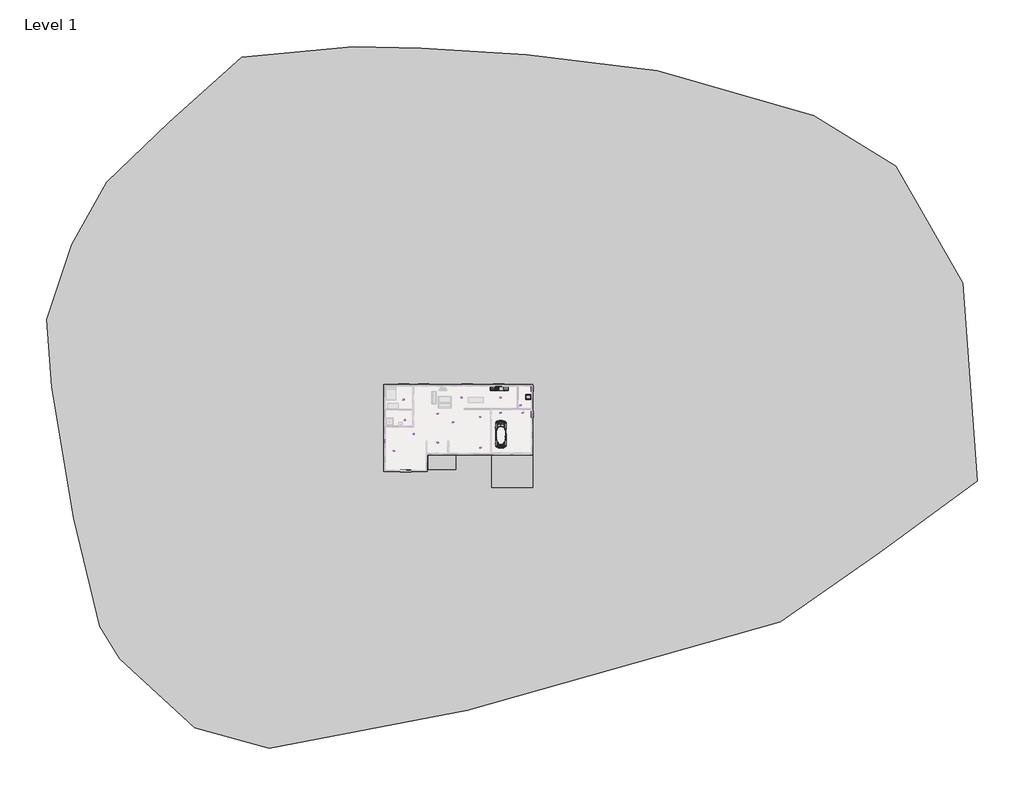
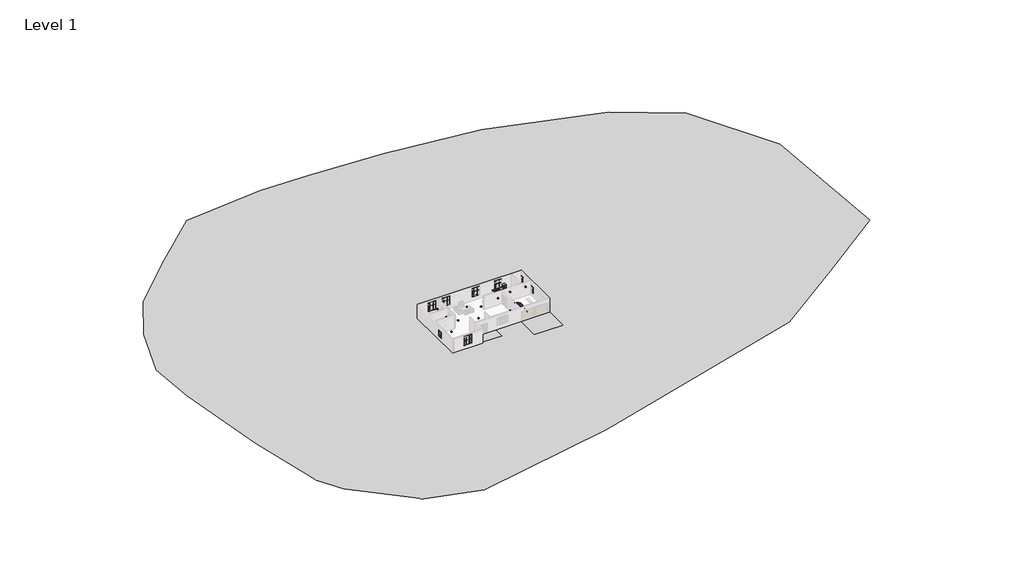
# One storey, part 2 of 2: 39 proxies, 14 light fixtures, 1 flow terminal, 1 furniture element.
"""IFC4 building model written with IfcOpenShell, lengths in millimetres."""

from ifc_helpers import new_model, si_unit, origin, place, context, project, spatial, triangles, transform, mapped, element, save
from components import proxy_a6faaae8, muntin_pattern_2x2_muntin_pattern_2x2_bff912c5, muntin_pattern_2x2_muntin_pattern_2x2_c2194282, muntin_pattern_2x2_muntin_pattern_2x2_b8ba09c9, rpc_beetle_rpc_beetle_e6dad58a, proxy_c523a7b7, trim_window_exterior_flat_with_sill_e04b3088, trim_window_exterior_flat_with_sill_6cd3ad68, trim_window_interior_flat_picture_frame_2a7685fe, trim_window_interior_flat_picture_frame_840a62db, proxy_e25b1b2c, flow_terminal_871c2e40, furniture_b11095bc, ceiling_light_flat_round_60w_120v_a3c1fe64

model = new_model("IFC4")

# Units and contexts
model_context = context("Model", 3, world=origin())
ifc_project = project(units=[si_unit("LENGTHUNIT", "METRE", prefix="MILLI")], contexts=[model_context])

# Site, building, storey
site = spatial("IfcSite", under=ifc_project)
building = spatial("IfcBuilding", under=site)
storey = spatial("IfcBuildingStorey", under=building, Name="Level 1", Elevation=0.0)

# Proxies
placement = place(None, origin())
element("IfcBuildingElementProxy", 1, Name="Building Element Proxy", at=placement, inside=storey, context=model_context, shape_type="Tessellation", body=[
    triangles([(56932.1249268, -10434.5561096, 0.0), (71064.9785522, -149.3385862, 0.0), (68914.8818848, 28518.6336731, 0.0), (59239.4399048, 45361.0684204, 0.0), (47413.9012573, 52647.5120361, 0.0), (24837.8722961, 59217.2552124, 0.0), (5845.3397186, 61486.8050537, 0.0), (-9324.7965225, 62442.4025391, 0.0), (-19119.6876068, 62681.3042358, 0.0), (-35245.4230774, 61128.454834, 0.0), (-45772.5921387, 51671.1390747, 0.0), (-54705.3678223, 43049.9722778, 0.0), (-59794.9734375, 34013.3308411, 0.0), (-63430.4026978, 23210.9041626, 0.0), (-62703.3168457, 13447.1745483, 0.0), (-59483.3645508, -5560.9378922, 0.0), (-55744.062561, -21141.3583923, 0.0), (-52835.7191528, -25815.4847168, 0.0), (-42033.2901489, -35786.9528137, 0.0), (-31230.8681213, -38799.1689514, 0.0), (-2666.7633865, -33294.0863708, 0.0), (42559.2580444, -20487.7075928, 0.0), (-4333.4491539, 3639.5888901, 0.0), (-4333.4491539, 1505.9887447, 0.0), (-5944.5261063, 1505.9887447, 0.0), (-8295.8494446, 1505.9887447, 0.0), (-8295.8494446, 3639.5888901, 0.0), (-6397.5100845, 3639.5888901, 0.0), (6837.6035706, 3639.5888901, 0.0), (6837.6035706, -1084.8112553, 0.0), (6685.8285324, -1084.8112553, 0.0), (894.0034979, -1084.8112553, 0.0), (894.0034979, 3639.5888901, 0.0), (5746.2172806, 3639.5888901, 0.0), (-19016.289267, -14597.1892365, 0.0), (-23493.0822876, -11691.2003357, 0.0), (-25456.5880188, -5957.7625076, 0.0), (-25849.2896301, -381.4053532, 0.0), (-23885.7838989, 6294.5152084, 0.0), (-22314.9797791, 11556.7108704, 0.0), (-18073.8060974, 19096.5739014, 0.0), (-10062.702063, 20903.0008484, 0.0), (-6921.0920792, 22945.0459717, 0.0), (-2836.9992165, 23102.1270813, 0.0), (1875.4150326, 23102.1270813, 0.0), (10514.8419067, 22552.3443604, 0.0), (17033.6812134, 20745.9197388, 0.0), (22060.2581177, 18311.1718414, 0.0), (25044.7852478, 15405.1829407, 0.0), (27243.9138062, 10692.7682556, 0.0), (28657.6368164, 6451.5957367, 0.0), (29443.0400391, 1739.181197, 0.0), (29600.1211487, -4622.5783081, 0.0), (27243.9138062, -10591.6372192, 0.0), (24023.7638489, -14125.9470703, 0.0), (20332.3728882, -16167.9933563, 0.0), (14598.9344788, -18288.5801971, 0.0), (10279.221405, -19152.5228119, 0.0), (-1253.4694199, -20589.3479004, 0.0), (-8177.7357239, -22765.3732178, 0.0), (-14618.0356384, -23158.0748291, 0.0), (-20979.7961609, -22922.4543274, 0.0), (-25770.750238, -21979.9723206, 0.0), (-30090.4633118, -19937.9248718, 0.0), (-32211.0501526, -17346.0970276, 0.0), (-33074.9927673, -11848.2802826, 0.0), (-33153.5321594, -5015.2793381, 0.0), (-32289.5895447, 2131.8823723, 0.0), (-31504.186322, 7551.1588531, 0.0), (-30247.5444214, 12656.2751495, 0.0), (-27184.4732483, 16740.3677216, 0.0), (-21372.4954468, 22159.642749, 0.0), (-15560.518808, 24987.0934204, 0.0), (3289.1393509, 27186.2196533, 0.0), (20567.9933899, 21688.4017456, 0.0), (-22707.6813904, 30484.9090027, 0.0), (-9355.8393951, 31191.7705078, 0.0), (-88.0909257, 35197.3236877, 0.0), (13577.9107544, 32919.6557373, 0.0), (22138.7975098, 30013.6679993, 0.0), (29285.9589294, 24987.0934204, 0.0), (33841.2925049, 20510.2992371, 0.0), (36276.0415649, 15091.0218842, 0.0), (40674.2940308, 4331.0091866, 0.0), (-31268.5658203, 27107.6779358, 0.0), (-35038.4984985, 17525.7697815, 0.0), (-36766.383728, 11478.1714783, 0.0), (-39986.5313599, 1896.2615799, 0.0), (-40222.154187, -2737.6125504, 0.0), (40831.3728149, -4386.9578064, 0.0), (30935.3047668, -14675.7297913, 0.0), (19782.5901672, -18445.6613068, 0.0), (6352.2087799, -22137.0511047, 0.0), (-7235.2531357, -23472.2370483, 0.0), (-44934.5688721, 10771.3088104, 0.0), (-46662.4541016, 20039.0582336, 0.0), (-43599.3852539, 28835.5631653, 0.0), (-32996.4510498, 39674.1178711, 0.0), (-13361.3914124, 42894.2655029, 0.0), (6509.2893082, 42737.1867188, 0.0), (28343.4769226, 41480.5424927, 0.0), (39260.5710205, 37239.3711365, 0.0), (44679.8448853, 31113.2311157, 0.0), (49078.102002, 23102.1270813, 0.0), (52690.9512451, 14462.6997711, 0.0), (55911.098877, 2288.9629005, 0.0), (-45772.5921387, -32151.521228, 0.0), (-57302.1023438, -14078.2348663, 0.0), (-59898.8415161, 1502.1859245, 0.0), (-40475.2503662, 54371.7463257, 0.0)], [[17, 66, 108], [17, 108, 16], [65, 17, 18], [65, 107, 64], [19, 107, 18], [64, 107, 19], [107, 65, 18], [66, 17, 65], [109, 16, 89], [16, 109, 15], [16, 108, 89], [109, 89, 88], [67, 66, 37], [68, 89, 67], [95, 109, 88], [88, 89, 68], [67, 38, 68], [67, 89, 66], [108, 66, 89], [68, 69, 88], [36, 66, 65], [20, 63, 64], [63, 20, 62], [36, 64, 63], [20, 64, 19], [61, 94, 60], [61, 62, 20], [63, 62, 35], [61, 35, 62], [35, 60, 59], [94, 61, 21], [61, 20, 21], [35, 61, 60], [39, 38, 26], [38, 67, 37], [26, 38, 37], [38, 39, 68], [35, 26, 37], [35, 36, 63], [27, 39, 26], [27, 28, 42], [26, 35, 59], [37, 36, 35], [66, 36, 37], [39, 27, 40], [65, 64, 36], [39, 69, 68], [14, 15, 96], [96, 15, 95], [14, 96, 13], [88, 87, 95], [95, 15, 109], [87, 86, 95], [70, 86, 87], [97, 86, 85], [95, 86, 96], [69, 87, 88], [96, 86, 97], [12, 98, 11], [97, 12, 13], [98, 110, 11], [85, 98, 97], [110, 10, 11], [10, 110, 98], [98, 9, 10], [98, 12, 97], [13, 96, 97], [70, 87, 69], [70, 40, 71], [70, 69, 39], [71, 40, 41], [71, 85, 86], [72, 41, 73], [41, 40, 27], [73, 42, 43], [41, 42, 73], [27, 42, 41], [41, 72, 71], [42, 44, 43], [71, 72, 85], [99, 98, 76], [85, 72, 76], [98, 99, 9], [76, 98, 85], [77, 99, 76], [77, 73, 43], [99, 8, 9], [100, 8, 99], [78, 99, 77], [77, 76, 73], [72, 73, 76], [77, 43, 44], [71, 86, 70], [39, 40, 70], [59, 60, 94], [26, 59, 25], [59, 21, 93], [31, 32, 58], [25, 59, 32], [31, 58, 30], [93, 58, 59], [32, 59, 58], [21, 92, 93], [24, 25, 32], [24, 33, 23], [33, 34, 45], [24, 32, 33], [29, 46, 34], [23, 44, 42], [44, 23, 33], [30, 52, 29], [94, 21, 59], [93, 57, 58], [93, 92, 57], [57, 92, 56], [57, 56, 30], [91, 55, 92], [91, 92, 22], [55, 91, 54], [55, 56, 92], [22, 90, 91], [30, 56, 55], [21, 22, 92], [30, 55, 54], [52, 30, 53], [54, 91, 53], [52, 53, 90], [30, 54, 53], [90, 1, 106], [53, 91, 90], [106, 2, 105], [2, 106, 1], [52, 90, 84], [22, 1, 90], [29, 52, 51], [57, 30, 58], [106, 84, 90], [46, 29, 47], [34, 46, 45], [45, 46, 74], [44, 45, 74], [80, 75, 81], [49, 48, 29], [46, 47, 79], [75, 47, 48], [81, 75, 48], [29, 48, 47], [44, 33, 45], [80, 47, 75], [8, 100, 7], [74, 78, 44], [79, 78, 74], [99, 78, 100], [101, 100, 79], [79, 74, 46], [100, 6, 7], [101, 6, 100], [101, 79, 80], [79, 100, 78], [47, 80, 79], [81, 48, 49], [78, 77, 44], [49, 83, 82], [29, 50, 49], [83, 50, 51], [82, 81, 49], [84, 105, 83], [105, 84, 106], [83, 104, 82], [104, 83, 105], [105, 3, 104], [84, 83, 51], [51, 52, 84], [82, 104, 103], [101, 81, 102], [101, 80, 81], [102, 81, 103], [101, 102, 5], [103, 3, 4], [103, 81, 82], [5, 102, 4], [4, 102, 103], [104, 3, 103], [101, 5, 6], [105, 2, 3], [50, 83, 49], [29, 51, 50], [23, 42, 28]], closed=False),
])
element("IfcBuildingElementProxy", 2, Name="Building Element Proxy", at=placement, inside=storey, context=model_context, shape_type="Tessellation", body=[
    triangles([(-4333.4491539, 3639.5888901, 0.0), (-6397.5100845, 3639.5888901, 0.0), (-8295.8494446, 3639.5888901, 0.0), (-8295.8494446, 1505.9887447, 0.0), (-5944.5261063, 1505.9887447, 0.0), (-4333.4491539, 1505.9887447, 0.0)], [[3, 4, 2], [2, 4, 5], [5, 6, 1], [5, 1, 2]], closed=False),
])
element("IfcBuildingElementProxy", 3, Name="Building Element Proxy", at=placement, inside=storey, context=model_context, shape_type="Tessellation", body=[
    triangles([(6837.6035706, 3639.5888901, 0.0), (5746.2172806, 3639.5888901, 0.0), (894.0034979, 3639.5888901, 0.0), (894.0034979, -1084.8112553, 0.0), (6685.8285324, -1084.8112553, 0.0), (6837.6035706, -1084.8112553, 0.0)], [[3, 4, 2], [2, 4, 5], [5, 6, 1], [5, 1, 2]], closed=False),
])
proxy_shape = proxy_a6faaae8(model_context)
element("IfcBuildingElementProxy", 4, Name="Cook Top-4 Unit2 : 22\" x 20\"", ObjectType="Cook Top-4 Unit2 : 22\" x 20\"", at=placement, inside=storey, context=model_context, shape_type="MappedRepresentation", body=[
    mapped(proxy_shape, transform((1012.2729641, 13250.7069827, 1.7), x_axis=(-1.0000000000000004, 0.0, 0.0), y_axis=(0.0, -1.0000000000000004, 0.0), z_axis=(0.0, 0.0, 1.0))),
])
muntin_pattern_2x2_muntin_pattern_2x2_shape = muntin_pattern_2x2_muntin_pattern_2x2_bff912c5(model_context)
element("IfcBuildingElementProxy", 5, Name="Muntin Pattern_2x2 : Muntin Pattern_2x2", ObjectType="Muntin Pattern_2x2 : Muntin Pattern_2x2", at=placement, inside=storey, context=model_context, shape_type="MappedRepresentation", body=[
    mapped(muntin_pattern_2x2_muntin_pattern_2x2_shape, transform((-11191.1348837, 1227.7053156, 984.25), x_axis=(-1.0, 0.0, 0.0), y_axis=(0.0, -1.0, 0.0), z_axis=(0.0, 0.0, 1.0))),
])
element("IfcBuildingElementProxy", 6, Name="Muntin Pattern_2x2 : Muntin Pattern_2x2", ObjectType="Muntin Pattern_2x2 : Muntin Pattern_2x2", at=placement, inside=storey, context=model_context, shape_type="MappedRepresentation", body=[
    mapped(muntin_pattern_2x2_muntin_pattern_2x2_shape, transform((1550.1401163, 13807.0553156, 984.25), x_axis=(1.0, 0.0, 0.0), y_axis=(0.0, 1.0, 0.0), z_axis=(0.0, 0.0, 1.0))),
])
element("IfcBuildingElementProxy", 7, Name="Muntin Pattern_2x2 : Muntin Pattern_2x2", ObjectType="Muntin Pattern_2x2 : Muntin Pattern_2x2", at=placement, inside=storey, context=model_context, shape_type="MappedRepresentation", body=[
    mapped(muntin_pattern_2x2_muntin_pattern_2x2_shape, transform((-3021.8598837, 13807.0553156, 984.25), x_axis=(1.0, 0.0, 0.0), y_axis=(0.0, 1.0, 0.0), z_axis=(0.0, 0.0, 1.0))),
])
element("IfcBuildingElementProxy", 8, Name="Muntin Pattern_2x2 : Muntin Pattern_2x2", ObjectType="Muntin Pattern_2x2 : Muntin Pattern_2x2", at=placement, inside=storey, context=model_context, shape_type="MappedRepresentation", body=[
    mapped(muntin_pattern_2x2_muntin_pattern_2x2_shape, transform((-9309.9473837, 13807.0553156, 984.25), x_axis=(1.0, 0.0, 0.0), y_axis=(0.0, 1.0, 0.0), z_axis=(0.0, 0.0, 1.0))),
])
element("IfcBuildingElementProxy", 9, Name="Muntin Pattern_2x2 : Muntin Pattern_2x2", ObjectType="Muntin Pattern_2x2 : Muntin Pattern_2x2", at=placement, inside=storey, context=model_context, shape_type="MappedRepresentation", body=[
    mapped(muntin_pattern_2x2_muntin_pattern_2x2_shape, transform((-12205.5473837, 13807.0553156, 984.25), x_axis=(1.0, 0.0, 0.0), y_axis=(0.0, 1.0, 0.0), z_axis=(0.0, 0.0, 1.0))),
])
muntin_pattern_2x2_muntin_pattern_2x2_2_shape = muntin_pattern_2x2_muntin_pattern_2x2_c2194282(model_context)
element("IfcBuildingElementProxy", 10, Name="Muntin Pattern_2x2 : Muntin Pattern_2x2", ObjectType="Muntin Pattern_2x2 : Muntin Pattern_2x2", at=placement, inside=storey, context=model_context, shape_type="MappedRepresentation", body=[
    mapped(muntin_pattern_2x2_muntin_pattern_2x2_2_shape, transform((-11911.8598837, 1227.7053156, 984.25), x_axis=(1.0, 0.0, 0.0), y_axis=(0.0, 1.0, 0.0), z_axis=(0.0, 0.0, 1.0))),
])
element("IfcBuildingElementProxy", 11, Name="Muntin Pattern_2x2 : Muntin Pattern_2x2", ObjectType="Muntin Pattern_2x2 : Muntin Pattern_2x2", at=placement, inside=storey, context=model_context, shape_type="MappedRepresentation", body=[
    mapped(muntin_pattern_2x2_muntin_pattern_2x2_2_shape, transform((2270.8651163, 13807.0553156, 984.25), x_axis=(-1.0, 0.0, 0.0), y_axis=(0.0, -1.0, 0.0), z_axis=(0.0, 0.0, 1.0))),
])
element("IfcBuildingElementProxy", 12, Name="Muntin Pattern_2x2 : Muntin Pattern_2x2", ObjectType="Muntin Pattern_2x2 : Muntin Pattern_2x2", at=placement, inside=storey, context=model_context, shape_type="MappedRepresentation", body=[
    mapped(muntin_pattern_2x2_muntin_pattern_2x2_2_shape, transform((-2301.1348837, 13807.0553156, 984.25), x_axis=(-1.0, 0.0, 0.0), y_axis=(0.0, -1.0, 0.0), z_axis=(0.0, 0.0, 1.0))),
])
element("IfcBuildingElementProxy", 13, Name="Muntin Pattern_2x2 : Muntin Pattern_2x2", ObjectType="Muntin Pattern_2x2 : Muntin Pattern_2x2", at=placement, inside=storey, context=model_context, shape_type="MappedRepresentation", body=[
    mapped(muntin_pattern_2x2_muntin_pattern_2x2_2_shape, transform((-8589.2223837, 13807.0553156, 984.25), x_axis=(-1.0, 0.0, 0.0), y_axis=(0.0, -1.0, 0.0), z_axis=(0.0, 0.0, 1.0))),
])
element("IfcBuildingElementProxy", 14, Name="Muntin Pattern_2x2 : Muntin Pattern_2x2", ObjectType="Muntin Pattern_2x2 : Muntin Pattern_2x2", at=placement, inside=storey, context=model_context, shape_type="MappedRepresentation", body=[
    mapped(muntin_pattern_2x2_muntin_pattern_2x2_2_shape, transform((-11484.8223837, 13807.0553156, 984.25), x_axis=(-1.0, 0.0, 0.0), y_axis=(0.0, -1.0, 0.0), z_axis=(0.0, 0.0, 1.0))),
])
muntin_pattern_2x2_muntin_pattern_2x2_3_shape = muntin_pattern_2x2_muntin_pattern_2x2_b8ba09c9(model_context)
element("IfcBuildingElementProxy", 15, Name="Muntin Pattern_2x2 : Muntin Pattern_2x2", ObjectType="Muntin Pattern_2x2 : Muntin Pattern_2x2", at=placement, inside=storey, context=model_context, shape_type="MappedRepresentation", body=[
    mapped(muntin_pattern_2x2_muntin_pattern_2x2_3_shape, transform((6803.1776163, 9498.5803156, 1520.825), x_axis=(0.0, -1.0, 0.0), y_axis=(1.0, 0.0, 0.0), z_axis=(0.0, 0.0, 1.0))),
])
element("IfcBuildingElementProxy", 16, Name="Muntin Pattern_2x2 : Muntin Pattern_2x2", ObjectType="Muntin Pattern_2x2 : Muntin Pattern_2x2", at=placement, inside=storey, context=model_context, shape_type="MappedRepresentation", body=[
    mapped(muntin_pattern_2x2_muntin_pattern_2x2_3_shape, transform((6758.7276163, 9498.5803156, 990.6), x_axis=(0.0, -1.0, 0.0), y_axis=(1.0, 0.0, 0.0), z_axis=(0.0, 0.0, 1.0))),
])
element("IfcBuildingElementProxy", 17, Name="Muntin Pattern_2x2 : Muntin Pattern_2x2", ObjectType="Muntin Pattern_2x2 : Muntin Pattern_2x2", at=placement, inside=storey, context=model_context, shape_type="MappedRepresentation", body=[
    mapped(muntin_pattern_2x2_muntin_pattern_2x2_3_shape, transform((-14532.8223837, 5626.6678156, 1520.825), x_axis=(0.0, -1.0, 0.0), y_axis=(1.0, 0.0, 0.0), z_axis=(0.0, 0.0, 1.0))),
])
element("IfcBuildingElementProxy", 18, Name="Muntin Pattern_2x2 : Muntin Pattern_2x2", ObjectType="Muntin Pattern_2x2 : Muntin Pattern_2x2", at=placement, inside=storey, context=model_context, shape_type="MappedRepresentation", body=[
    mapped(muntin_pattern_2x2_muntin_pattern_2x2_3_shape, transform((-14577.2723837, 5626.6678156, 990.6), x_axis=(0.0, -1.0, 0.0), y_axis=(1.0, 0.0, 0.0), z_axis=(0.0, 0.0, 1.0))),
])
element("IfcBuildingElementProxy", 19, Name="Muntin Pattern_2x2 : Muntin Pattern_2x2", ObjectType="Muntin Pattern_2x2 : Muntin Pattern_2x2", at=placement, inside=storey, context=model_context, shape_type="MappedRepresentation", body=[
    mapped(muntin_pattern_2x2_muntin_pattern_2x2_3_shape, transform((6803.1776163, 13257.7803156, 1520.825), x_axis=(0.0, -1.0, 0.0), y_axis=(1.0, 0.0, 0.0), z_axis=(0.0, 0.0, 1.0))),
])
element("IfcBuildingElementProxy", 20, Name="Muntin Pattern_2x2 : Muntin Pattern_2x2", ObjectType="Muntin Pattern_2x2 : Muntin Pattern_2x2", at=placement, inside=storey, context=model_context, shape_type="MappedRepresentation", body=[
    mapped(muntin_pattern_2x2_muntin_pattern_2x2_3_shape, transform((6758.7276163, 13257.7803156, 990.6), x_axis=(0.0, -1.0, 0.0), y_axis=(1.0, 0.0, 0.0), z_axis=(0.0, 0.0, 1.0))),
])
rpc_beetle_rpc_beetle_shape = rpc_beetle_rpc_beetle_e6dad58a(model_context)
element("IfcBuildingElementProxy", 21, Name="RPC Beetle : RPC Beetle", ObjectType="RPC Beetle : RPC Beetle", at=placement, inside=storey, context=model_context, shape_type="MappedRepresentation", body=[
    mapped(rpc_beetle_rpc_beetle_shape, transform((2215.3026163, 5383.7803156, 0.0), x_axis=(1.0, 0.0, 0.0), y_axis=(0.0, 1.0, 0.0), z_axis=(0.0, 0.0, 1.0))),
])
proxy_2_shape = proxy_c523a7b7(model_context)
element("IfcBuildingElementProxy", 22, Name="Refrigerator : 24\" x 25\" LH", ObjectType="Refrigerator : 24\" x 25\" LH", at=placement, inside=storey, context=model_context, shape_type="MappedRepresentation", body=[
    mapped(proxy_2_shape, transform((2949.0229641, 13262.2080112, 0.0), x_axis=(1.0, 0.0, 0.0), y_axis=(0.0, 1.0, 0.0), z_axis=(0.0, 0.0, 1.0))),
])
trim_window_exterior_flat_with_sill_shape = trim_window_exterior_flat_with_sill_e04b3088(model_context)
element("IfcBuildingElementProxy", 23, Name="Trim-Window-Exterior-Flat : with Sill", ObjectType="Trim-Window-Exterior-Flat : with Sill", at=placement, inside=storey, context=model_context, shape_type="MappedRepresentation", body=[
    mapped(trim_window_exterior_flat_with_sill_shape, transform((-11551.4973837, 1218.1803156, 2743.2), x_axis=(1.0, 0.0, 0.0), y_axis=(0.0, 0.0, 1.0), z_axis=(0.0, -1.0, 0.0))),
])
element("IfcBuildingElementProxy", 24, Name="Trim-Window-Exterior-Flat : with Sill", ObjectType="Trim-Window-Exterior-Flat : with Sill", at=placement, inside=storey, context=model_context, shape_type="MappedRepresentation", body=[
    mapped(trim_window_exterior_flat_with_sill_shape, transform((1910.5026163, 13816.5803156, 2743.2), x_axis=(-1.0, 0.0, 0.0), y_axis=(0.0, 0.0, 1.0), z_axis=(0.0, 1.0, 0.0))),
])
element("IfcBuildingElementProxy", 25, Name="Trim-Window-Exterior-Flat : with Sill", ObjectType="Trim-Window-Exterior-Flat : with Sill", at=placement, inside=storey, context=model_context, shape_type="MappedRepresentation", body=[
    mapped(trim_window_exterior_flat_with_sill_shape, transform((-2661.4973837, 13816.5803156, 2743.2), x_axis=(-1.0, 0.0, 0.0), y_axis=(0.0, 0.0, 1.0), z_axis=(0.0, 1.0, 0.0))),
])
element("IfcBuildingElementProxy", 26, Name="Trim-Window-Exterior-Flat : with Sill", ObjectType="Trim-Window-Exterior-Flat : with Sill", at=placement, inside=storey, context=model_context, shape_type="MappedRepresentation", body=[
    mapped(trim_window_exterior_flat_with_sill_shape, transform((-8949.5848837, 13816.5803156, 2743.2), x_axis=(-1.0, 0.0, 0.0), y_axis=(0.0, 0.0, 1.0), z_axis=(0.0, 1.0, 0.0))),
])
element("IfcBuildingElementProxy", 27, Name="Trim-Window-Exterior-Flat : with Sill", ObjectType="Trim-Window-Exterior-Flat : with Sill", at=placement, inside=storey, context=model_context, shape_type="MappedRepresentation", body=[
    mapped(trim_window_exterior_flat_with_sill_shape, transform((-11845.1848837, 13816.5803156, 2743.2), x_axis=(-1.0, 0.0, 0.0), y_axis=(0.0, 0.0, 1.0), z_axis=(0.0, 1.0, 0.0))),
])
trim_window_exterior_flat_with_sill_2_shape = trim_window_exterior_flat_with_sill_6cd3ad68(model_context)
element("IfcBuildingElementProxy", 28, Name="Trim-Window-Exterior-Flat : with Sill", ObjectType="Trim-Window-Exterior-Flat : with Sill", at=placement, inside=storey, context=model_context, shape_type="MappedRepresentation", body=[
    mapped(trim_window_exterior_flat_with_sill_2_shape, transform((6838.1026163, 9498.5803156, 2082.8), x_axis=(0.0, 1.0, 0.0), y_axis=(0.0, 0.0, 1.0), z_axis=(1.0, 0.0, 0.0))),
])
element("IfcBuildingElementProxy", 29, Name="Trim-Window-Exterior-Flat : with Sill", ObjectType="Trim-Window-Exterior-Flat : with Sill", at=placement, inside=storey, context=model_context, shape_type="MappedRepresentation", body=[
    mapped(trim_window_exterior_flat_with_sill_2_shape, transform((-14497.8973837, 5626.6678156, 2082.8), x_axis=(0.0, 1.0, 0.0), y_axis=(0.0, 0.0, 1.0), z_axis=(1.0, 0.0, 0.0))),
])
element("IfcBuildingElementProxy", 30, Name="Trim-Window-Exterior-Flat : with Sill", ObjectType="Trim-Window-Exterior-Flat : with Sill", at=placement, inside=storey, context=model_context, shape_type="MappedRepresentation", body=[
    mapped(trim_window_exterior_flat_with_sill_2_shape, transform((6838.1026163, 13257.7803156, 2082.8), x_axis=(0.0, 1.0, 0.0), y_axis=(0.0, 0.0, 1.0), z_axis=(1.0, 0.0, 0.0))),
])
trim_window_interior_flat_picture_frame_shape = trim_window_interior_flat_picture_frame_2a7685fe(model_context)
element("IfcBuildingElementProxy", 31, Name="Trim-Window-Interior-Flat : Picture Frame", ObjectType="Trim-Window-Interior-Flat : Picture Frame", at=placement, inside=storey, context=model_context, shape_type="MappedRepresentation", body=[
    mapped(trim_window_interior_flat_picture_frame_shape, transform((-11551.4973837, 1421.3803156, 2743.2), x_axis=(-1.0, 0.0, 0.0), y_axis=(0.0, 0.0, 1.0), z_axis=(0.0, 1.0, 0.0))),
])
element("IfcBuildingElementProxy", 32, Name="Trim-Window-Interior-Flat : Picture Frame", ObjectType="Trim-Window-Interior-Flat : Picture Frame", at=placement, inside=storey, context=model_context, shape_type="MappedRepresentation", body=[
    mapped(trim_window_interior_flat_picture_frame_shape, transform((1910.5026163, 13613.3803156, 2743.2), x_axis=(1.0, 0.0, 0.0), y_axis=(0.0, 0.0, 1.0), z_axis=(0.0, -1.0, 0.0))),
])
element("IfcBuildingElementProxy", 33, Name="Trim-Window-Interior-Flat : Picture Frame", ObjectType="Trim-Window-Interior-Flat : Picture Frame", at=placement, inside=storey, context=model_context, shape_type="MappedRepresentation", body=[
    mapped(trim_window_interior_flat_picture_frame_shape, transform((-2661.4973837, 13613.3803156, 2743.2), x_axis=(1.0, 0.0, 0.0), y_axis=(0.0, 0.0, 1.0), z_axis=(0.0, -1.0, 0.0))),
])
element("IfcBuildingElementProxy", 34, Name="Trim-Window-Interior-Flat : Picture Frame", ObjectType="Trim-Window-Interior-Flat : Picture Frame", at=placement, inside=storey, context=model_context, shape_type="MappedRepresentation", body=[
    mapped(trim_window_interior_flat_picture_frame_shape, transform((-8949.5848837, 13613.3803156, 2743.2), x_axis=(1.0, 0.0, 0.0), y_axis=(0.0, 0.0, 1.0), z_axis=(0.0, -1.0, 0.0))),
])
element("IfcBuildingElementProxy", 35, Name="Trim-Window-Interior-Flat : Picture Frame", ObjectType="Trim-Window-Interior-Flat : Picture Frame", at=placement, inside=storey, context=model_context, shape_type="MappedRepresentation", body=[
    mapped(trim_window_interior_flat_picture_frame_shape, transform((-11845.1848837, 13613.3803156, 2743.2), x_axis=(1.0, 0.0, 0.0), y_axis=(0.0, 0.0, 1.0), z_axis=(0.0, -1.0, 0.0))),
])
trim_window_interior_flat_picture_frame_2_shape = trim_window_interior_flat_picture_frame_840a62db(model_context)
element("IfcBuildingElementProxy", 36, Name="Trim-Window-Interior-Flat : Picture Frame", ObjectType="Trim-Window-Interior-Flat : Picture Frame", at=placement, inside=storey, context=model_context, shape_type="MappedRepresentation", body=[
    mapped(trim_window_interior_flat_picture_frame_2_shape, transform((6634.9026163, 9498.5803156, 2082.8), x_axis=(0.0, -1.0, 0.0), y_axis=(0.0, 0.0, 1.0), z_axis=(-1.0, 0.0, 0.0))),
])
element("IfcBuildingElementProxy", 37, Name="Trim-Window-Interior-Flat : Picture Frame", ObjectType="Trim-Window-Interior-Flat : Picture Frame", at=placement, inside=storey, context=model_context, shape_type="MappedRepresentation", body=[
    mapped(trim_window_interior_flat_picture_frame_2_shape, transform((-14701.0973837, 5626.6678156, 2082.8), x_axis=(0.0, -1.0, 0.0), y_axis=(0.0, 0.0, 1.0), z_axis=(-1.0, 0.0, 0.0))),
])
element("IfcBuildingElementProxy", 38, Name="Trim-Window-Interior-Flat : Picture Frame", ObjectType="Trim-Window-Interior-Flat : Picture Frame", at=placement, inside=storey, context=model_context, shape_type="MappedRepresentation", body=[
    mapped(trim_window_interior_flat_picture_frame_2_shape, transform((6634.9026163, 13257.7803156, 2082.8), x_axis=(0.0, -1.0, 0.0), y_axis=(0.0, 0.0, 1.0), z_axis=(-1.0, 0.0, 0.0))),
])
proxy_3_shape = proxy_e25b1b2c(model_context)
element("IfcBuildingElementProxy", 39, Name="Washer-Front_Load : 27\"", ObjectType="Washer-Front_Load : 27\"", at=placement, inside=storey, context=model_context, shape_type="MappedRepresentation", body=[
    mapped(proxy_3_shape, transform((6653.9526163, 12025.8803156, 0.0), x_axis=(0.0, -1.0, 0.0), y_axis=(1.0, 0.0, 0.0), z_axis=(0.0, 0.0, 1.0))),
])

# Flow terminal
flow_terminal_shape = flow_terminal_871c2e40(model_context)
element("IfcFlowTerminal", 40, ObjectType="Sink Kitchen-Island : 18\" x 18\"", at=placement, inside=storey, context=model_context, shape_type="MappedRepresentation", body=[
    mapped(flow_terminal_shape, transform((1669.6837235, 13242.0115816, -12.7), x_axis=(1.0, 0.0, 0.0), y_axis=(0.0, 1.0, 0.0), z_axis=(0.0, 0.0, 1.0))),
])

# Furniture
furniture_shape = furniture_b11095bc(model_context)
element("IfcFurniture", 41, ObjectType="Counter Top w Sink Hole : 24\" Depth", at=placement, inside=storey, context=model_context, shape_type="MappedRepresentation", body=[
    mapped(furniture_shape, transform((1869.8352591, 13561.8569827, -12.7), x_axis=(1.0, 0.0, 0.0), y_axis=(0.0, 1.0, 0.0), z_axis=(0.0, 0.0, 1.0))),
])

# Light fixtures
ceiling_light_flat_round_60w_120v_shape = ceiling_light_flat_round_60w_120v_a3c1fe64(model_context)
element("IfcLightFixture", 42, ObjectType="Ceiling Light - Flat Round : 60W - 120V", at=placement, inside=storey, context=model_context, shape_type="MappedRepresentation", body=[
    mapped(ceiling_light_flat_round_60w_120v_shape, transform((-11692.7848837, 8674.6678156, 2438.4), x_axis=(1.0, 0.0, 0.0), y_axis=(0.0, -1.0, 0.0), z_axis=(0.0, 0.0, -1.0))),
])
element("IfcLightFixture", 43, ObjectType="Ceiling Light - Flat Round : 60W - 120V", at=placement, inside=storey, context=model_context, shape_type="MappedRepresentation", body=[
    mapped(ceiling_light_flat_round_60w_120v_shape, transform((-11845.1848837, 11632.1803156, 2438.4), x_axis=(1.0, 0.0, 0.0), y_axis=(0.0, -1.0, 0.0), z_axis=(0.0, 0.0, -1.0))),
])
element("IfcLightFixture", 44, ObjectType="Ceiling Light - Flat Round : 60W - 120V", at=placement, inside=storey, context=model_context, shape_type="MappedRepresentation", body=[
    mapped(ceiling_light_flat_round_60w_120v_shape, transform((-13216.7848837, 4215.3803156, 2438.4), x_axis=(1.0, 0.0, 0.0), y_axis=(0.0, -1.0, 0.0), z_axis=(0.0, 0.0, -1.0))),
])
element("IfcLightFixture", 45, ObjectType="Ceiling Light - Flat Round : 60W - 120V", at=placement, inside=storey, context=model_context, shape_type="MappedRepresentation", body=[
    mapped(ceiling_light_flat_round_60w_120v_shape, transform((-10411.6723837, 6653.7803156, 2438.4), x_axis=(1.0, 0.0, 0.0), y_axis=(0.0, -1.0, 0.0), z_axis=(0.0, 0.0, -1.0))),
])
element("IfcLightFixture", 46, ObjectType="Ceiling Light - Flat Round : 60W - 120V", at=placement, inside=storey, context=model_context, shape_type="MappedRepresentation", body=[
    mapped(ceiling_light_flat_round_60w_120v_shape, transform((-6917.5848837, 5434.5803156, 2438.4), x_axis=(1.0, 0.0, 0.0), y_axis=(0.0, -1.0, 0.0), z_axis=(0.0, 0.0, -1.0))),
])
element("IfcLightFixture", 47, ObjectType="Ceiling Light - Flat Round : 60W - 120V", at=placement, inside=storey, context=model_context, shape_type="MappedRepresentation", body=[
    mapped(ceiling_light_flat_round_60w_120v_shape, transform((-6917.5848837, 9589.0678156, 2438.4), x_axis=(1.0, 0.0, 0.0), y_axis=(0.0, -1.0, 0.0), z_axis=(0.0, 0.0, -1.0))),
])
element("IfcLightFixture", 48, ObjectType="Ceiling Light - Flat Round : 60W - 120V", at=placement, inside=storey, context=model_context, shape_type="MappedRepresentation", body=[
    mapped(ceiling_light_flat_round_60w_120v_shape, transform((-3474.2973837, 11936.9803156, 2438.4), x_axis=(1.0, 0.0, 0.0), y_axis=(0.0, -1.0, 0.0), z_axis=(0.0, 0.0, -1.0))),
])
element("IfcLightFixture", 49, ObjectType="Ceiling Light - Flat Round : 60W - 120V", at=placement, inside=storey, context=model_context, shape_type="MappedRepresentation", body=[
    mapped(ceiling_light_flat_round_60w_120v_shape, transform((2164.5026163, 11936.9803156, 2438.4), x_axis=(1.0, 0.0, 0.0), y_axis=(0.0, -1.0, 0.0), z_axis=(0.0, 0.0, -1.0))),
])
element("IfcLightFixture", 50, ObjectType="Ceiling Light - Flat Round : 60W - 120V", at=placement, inside=storey, context=model_context, shape_type="MappedRepresentation", body=[
    mapped(ceiling_light_flat_round_60w_120v_shape, transform((5060.1026163, 10832.0803156, 2438.4), x_axis=(1.0, 0.0, 0.0), y_axis=(0.0, -1.0, 0.0), z_axis=(0.0, 0.0, -1.0))),
])
element("IfcLightFixture", 51, ObjectType="Ceiling Light - Flat Round : 60W - 120V", at=placement, inside=storey, context=model_context, shape_type="MappedRepresentation", body=[
    mapped(ceiling_light_flat_round_60w_120v_shape, transform((2164.5026163, 9741.4678156, 2438.4), x_axis=(1.0, 0.0, 0.0), y_axis=(0.0, -1.0, 0.0), z_axis=(0.0, 0.0, -1.0))),
])
element("IfcLightFixture", 52, ObjectType="Ceiling Light - Flat Round : 60W - 120V", at=placement, inside=storey, context=model_context, shape_type="MappedRepresentation", body=[
    mapped(ceiling_light_flat_round_60w_120v_shape, transform((5364.9026163, 9741.4678156, 2438.4), x_axis=(1.0, 0.0, 0.0), y_axis=(0.0, -1.0, 0.0), z_axis=(0.0, 0.0, -1.0))),
])
element("IfcLightFixture", 53, ObjectType="Ceiling Light - Flat Round : 60W - 120V", at=placement, inside=storey, context=model_context, shape_type="MappedRepresentation", body=[
    mapped(ceiling_light_flat_round_60w_120v_shape, transform((-731.0973837, 9131.8678156, 2438.4), x_axis=(1.0, 0.0, 0.0), y_axis=(0.0, -1.0, 0.0), z_axis=(0.0, 0.0, -1.0))),
])
element("IfcLightFixture", 54, ObjectType="Ceiling Light - Flat Round : 60W - 120V", at=placement, inside=storey, context=model_context, shape_type="MappedRepresentation", body=[
    mapped(ceiling_light_flat_round_60w_120v_shape, transform((-731.0973837, 4672.5803156, 2438.4), x_axis=(1.0, 0.0, 0.0), y_axis=(0.0, -1.0, 0.0), z_axis=(0.0, 0.0, -1.0))),
])
element("IfcLightFixture", 55, ObjectType="Ceiling Light - Flat Round : 60W - 120V", at=placement, inside=storey, context=model_context, shape_type="MappedRepresentation", body=[
    mapped(ceiling_light_flat_round_60w_120v_shape, transform((-4693.4973837, 8369.8678156, 2438.4), x_axis=(1.0, 0.0, 0.0), y_axis=(0.0, -1.0, 0.0), z_axis=(0.0, 0.0, -1.0))),
])

save(model, "model.ifc")
